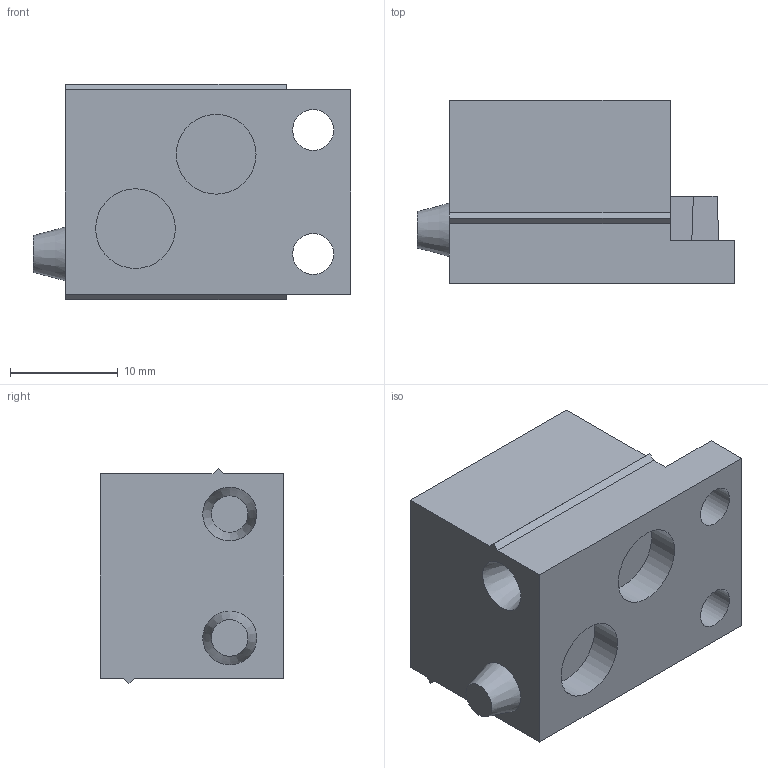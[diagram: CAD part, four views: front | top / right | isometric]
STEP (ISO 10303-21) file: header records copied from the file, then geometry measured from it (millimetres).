
FILE_DESCRIPTION(/* description */ ('STEP AP203'),/* implementation_level */ '2;1');
FILE_NAME(/* name */ '107844 TMS-STPG-GY',/* time_stamp */ '2024-10-04T14:42:38+02:00',/* author */ ('License CC BY-ND 4.0'),/* organization */ ('CADENAS'),/* preprocessor_version */ 'ST-DEVELOPER v19.3',/* originating_system */ 'PARTsolutions',/* authorisation */ ' ');
FILE_SCHEMA (('CONFIG_CONTROL_DESIGN'));
Length unit declared in the file: millimetre
Products named in the file (1): 107844 TMS-STPG-GY
Bounding box: 29.5 x 17 x 20 mm (x, y, z)
Volume: 6561.8 mm3; surface area: 2864.2 mm2
Topology: 1 solids, 1 shells, 36 faces, 84 edges, 56 vertices
Faces by surface type: plane 28, cylinder 6, cone 2
Full cylindrical faces by diameter (mm): 3.8 x2, 7.4 x4
Entity records: 1022 total; most frequent: CARTESIAN_POINT 169, DIRECTION 166, ORIENTED_EDGE 152, EDGE_CURVE 76, LINE 60, VECTOR 60, VERTEX_POINT 56, EDGE_LOOP 54
